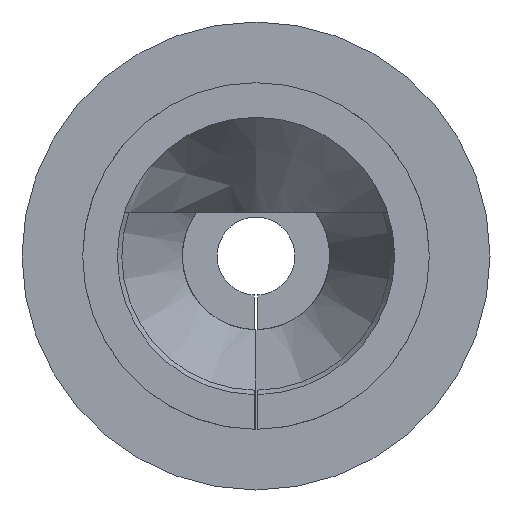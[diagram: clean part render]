
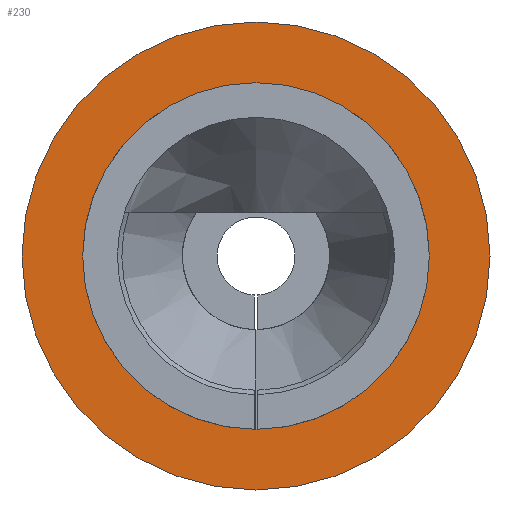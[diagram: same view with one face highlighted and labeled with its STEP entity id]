
A CAD part, front view. The second image highlights one B-rep face of the part: STEP entity #230.
In plain terms, the highlighted planar face has unit normal (0, -1, 0).
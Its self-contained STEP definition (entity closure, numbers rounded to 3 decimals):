
#10 = DIRECTION ( 'NONE',  ( 0., 0., -1. ) ) ;
#16 = DIRECTION ( 'NONE',  ( 0., -1., 0. ) ) ;
#39 = FACE_BOUND ( 'NONE', #636, .T. ) ;
#56 = ORIENTED_EDGE ( 'NONE', *, *, #549, .F. ) ;
#141 = ORIENTED_EDGE ( 'NONE', *, *, #497, .T. ) ;
#147 = CARTESIAN_POINT ( 'NONE',  ( 0., 0., 0. ) ) ;
#157 = CARTESIAN_POINT ( 'NONE',  ( 0., 0., -2.7 ) ) ;
#183 = CARTESIAN_POINT ( 'NONE',  ( 0., 0., 0. ) ) ;
#197 = AXIS2_PLACEMENT_3D ( 'NONE', #997, #899, #253 ) ;
#210 = EDGE_CURVE ( 'NONE', #1190, #256, #842, .T. ) ;
#230 = ADVANCED_FACE ( 'NONE', ( #788, #39 ), #1036, .T. ) ;
#252 = DIRECTION ( 'NONE',  ( 0., -1., 0. ) ) ;
#253 = DIRECTION ( 'NONE',  ( 0., 0., -1. ) ) ;
#256 = VERTEX_POINT ( 'NONE', #332 ) ;
#311 = AXIS2_PLACEMENT_3D ( 'NONE', #183, #16, #10 ) ;
#332 = CARTESIAN_POINT ( 'NONE',  ( 0., 0., 2. ) ) ;
#338 = CIRCLE ( 'NONE', #1123, 2.7 ) ;
#378 = CARTESIAN_POINT ( 'NONE',  ( 0., 0., 0. ) ) ;
#450 = DIRECTION ( 'NONE',  ( 0., 0., -1. ) ) ;
#454 = VERTEX_POINT ( 'NONE', #459 ) ;
#459 = CARTESIAN_POINT ( 'NONE',  ( 0., 0., 2.7 ) ) ;
#469 = ORIENTED_EDGE ( 'NONE', *, *, #210, .F. ) ;
#474 = DIRECTION ( 'NONE',  ( 0., 0., -1. ) ) ;
#497 = EDGE_CURVE ( 'NONE', #558, #454, #338, .T. ) ;
#532 = EDGE_LOOP ( 'NONE', ( #141, #553 ) ) ;
#539 = AXIS2_PLACEMENT_3D ( 'NONE', #906, #819, #450 ) ;
#549 = EDGE_CURVE ( 'NONE', #256, #1190, #1025, .T. ) ;
#553 = ORIENTED_EDGE ( 'NONE', *, *, #1162, .T. ) ;
#558 = VERTEX_POINT ( 'NONE', #157 ) ;
#636 = EDGE_LOOP ( 'NONE', ( #469, #56 ) ) ;
#678 = CIRCLE ( 'NONE', #707, 2.7 ) ;
#707 = AXIS2_PLACEMENT_3D ( 'NONE', #147, #252, #1009 ) ;
#788 = FACE_OUTER_BOUND ( 'NONE', #532, .T. ) ;
#819 = DIRECTION ( 'NONE',  ( 0., -1., 0. ) ) ;
#842 = CIRCLE ( 'NONE', #539, 2. ) ;
#896 = CARTESIAN_POINT ( 'NONE',  ( 0., 0., -2. ) ) ;
#899 = DIRECTION ( 'NONE',  ( 0., -1., 0. ) ) ;
#906 = CARTESIAN_POINT ( 'NONE',  ( 0., 0., 0. ) ) ;
#997 = CARTESIAN_POINT ( 'NONE',  ( 2., 0., 0. ) ) ;
#1009 = DIRECTION ( 'NONE',  ( 0., 0., -1. ) ) ;
#1025 = CIRCLE ( 'NONE', #311, 2. ) ;
#1036 = PLANE ( 'NONE',  #197 ) ;
#1100 = DIRECTION ( 'NONE',  ( 0., -1., 0. ) ) ;
#1123 = AXIS2_PLACEMENT_3D ( 'NONE', #378, #1100, #474 ) ;
#1162 = EDGE_CURVE ( 'NONE', #454, #558, #678, .T. ) ;
#1190 = VERTEX_POINT ( 'NONE', #896 ) ;
